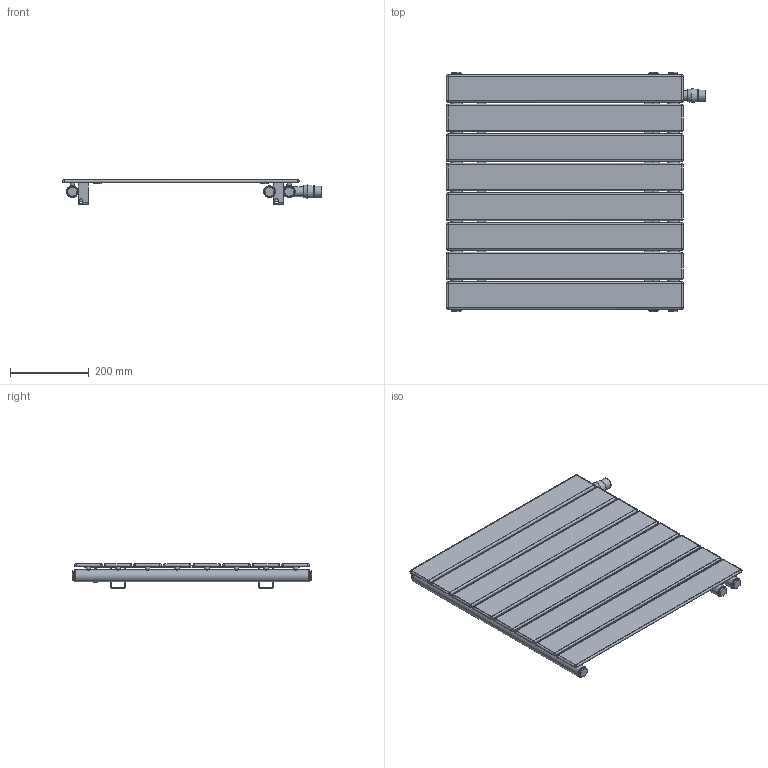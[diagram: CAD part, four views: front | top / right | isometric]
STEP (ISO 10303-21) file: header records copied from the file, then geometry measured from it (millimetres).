
FILE_DESCRIPTION(/* description */ (''),/* implementation_level */ '2;1');
FILE_NAME(/* name */ 'C:\Grzejniki\13DLUXRAD\pokojowe\NIAGARA\to\NIAGARA POZIOMA Z WKŁADKĄ TERMOSTATYCZNĄ 595x600.iam.stp',/* time_stamp */ '2016-06-28T17:34:01+02:00',/* author */ ('m.szydziak'),/* organization */ (''),/* preprocessor_version */ 'ST-DEVELOPER v16.5',/* originating_system */ 'Autodesk Inventor 2017',/* authorisation */ '');
FILE_SCHEMA (('AUTOMOTIVE_DESIGN { 1 0 10303 214 3 1 1 }'));
Length unit declared in the file: millimetre
Products named in the file (10): NIAGARA POZIOMA Z WKŁADKĄ TERMOST
ATYCZNĄ 595x600; NIAGARA 600x595; 70x8x1,2x604; michałek; ucho duze; ucho duze 2; poprzeczka 545; fi30x1,5x595; Głowica Termostatyczna; korek
Assembly tree (41 placements, depth 3):
  NIAGARA POZIOMA Z WKŁADKĄ TERMOST
ATYCZNĄ 595x600
    NIAGARA 600x595
      fi30x1,5x595  x2
      70x8x1,2x604  x8
      michałek  x16
      ucho duze  x2
      ucho duze 2  x2
      korek  x4
      poprzeczka 545  x2
    fi30x1,5x595
    Głowica Termostatyczna
    korek  x2
Bounding box: 656.85 x 607 x 62.5 mm (x, y, z)
Volume: 1260204.7 mm3; surface area: 1831797.5 mm2
Topology: 40 solids, 40 shells, 538 faces, 1191 edges, 733 vertices
Faces by surface type: plane 280, cylinder 188, sphere 64, torus 4, cone 2
Full cylindrical faces by diameter (mm): 8 x16, 9 x16, 10 x16, 11.5 x16, 18.631 x6, 24 x6, 25 x1, 27 x3, 28 x1, 30 x3
Entity records: 4105 total; most frequent: DIRECTION 728, CARTESIAN_POINT 700, ORIENTED_EDGE 548, AXIS2_PLACEMENT_3D 278, EDGE_CURVE 274, VERTEX_POINT 178, LINE 172, VECTOR 172
